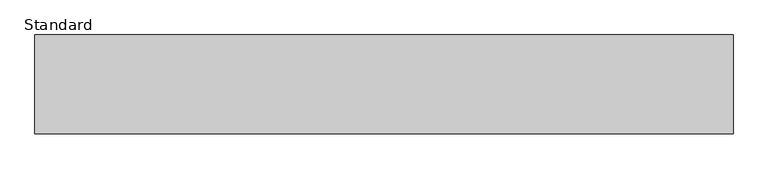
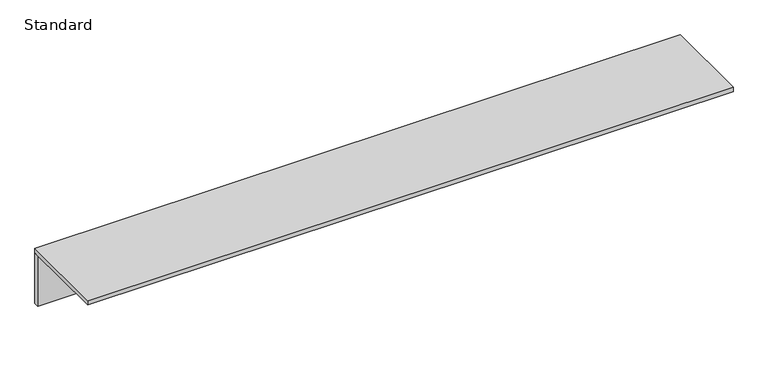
"""IFC4 building model written with IfcOpenShell, lengths in millimetres: furniture geometry, X_Bench-Wall-Duracube-Shoe Box with Fixtures : Standard."""

import ifcopenshell
import ifcopenshell.guid

model = None  # the IFC model being written
_history = None  # IfcOwnerHistory: only IFC2X3 demands one
_inside = {}  # id of a spatial element -> (the spatial element, [elements in it])
_under = {}  # id of a project, library or spatial element -> (it, [spatial elements below it])
_declared = {}  # id of a project -> (the project, [libraries it declares])
_typed = {}  # id of a type object -> (the type object, [elements of that type])
_made_of = {}  # id of a material, layer set ... -> (it, [elements and type objects made of it])


def new_model(schema):
    """Start an empty IFC model of exactly this schema.

    Asked for "IFC4X3", IfcOpenShell would pick the latest addendum, in which some entities
    have other attributes; the version numbers below select the first issue.
    IFC2X3 requires an IfcOwnerHistory on every rooted entity: one is made here for all.
    """
    global model, _history
    if schema == "IFC4X3":
        model = ifcopenshell.file(schema_version=(4, 3, 0, 0))
    else:
        model = ifcopenshell.file(schema=schema)
    _inside.clear()
    _under.clear()
    _declared.clear()
    _typed.clear()
    _made_of.clear()
    _history = None
    if model.schema == "IFC2X3":
        org = make("IfcOrganization", Name="unknown")
        user = make(
            "IfcPersonAndOrganization",
            ThePerson=make("IfcPerson", FamilyName="unknown"),
            TheOrganization=org,
        )
        app = make(
            "IfcApplication",
            ApplicationDeveloper=org,
            Version="unknown",
            ApplicationFullName="unknown",
            ApplicationIdentifier="unknown",
        )
        _history = make(
            "IfcOwnerHistory",
            OwningUser=user,
            OwningApplication=app,
            ChangeAction="ADDED",
            CreationDate=0,
        )
    return model


def make(cls, **values):
    """One entity of the class cls with the attributes given. An attribute that is None is left unset."""
    return model.create_entity(
        cls, **{name: value for name, value in values.items() if value is not None}
    )


def rooted(cls, **values):
    """An entity with a GlobalId (a new one), such as an element, a storey or a relation."""
    return make(cls, GlobalId=ifcopenshell.guid.new(), OwnerHistory=_history, **values)


def si_unit(unit_type, name, prefix=None):
    """IfcSIUnit, for example si_unit("LENGTHUNIT", "METRE", prefix="MILLI")."""
    return make("IfcSIUnit", UnitType=unit_type, Prefix=prefix, Name=name)


def assignment(units):
    """IfcUnitAssignment: the units of a project."""
    return None if units is None else make("IfcUnitAssignment", Units=units)


def point(xyz):
    """IfcCartesianPoint."""
    return None if xyz is None else make("IfcCartesianPoint", Coordinates=xyz)


def direction(xyz):
    """IfcDirection."""
    return None if xyz is None else make("IfcDirection", DirectionRatios=xyz)


def frame(location, z_axis=None, x_axis=None):
    """IfcAxis2Placement3D, a coordinate frame: its origin and axes. An axis left out is left unset."""
    return make(
        "IfcAxis2Placement3D",
        Location=point(location),
        Axis=direction(z_axis),
        RefDirection=direction(x_axis),
    )


def origin():
    """The frame at (0, 0, 0) with its axes left unset."""
    return frame((0.0, 0.0, 0.0))


def place(relative_to, where):
    """IfcLocalPlacement: puts the frame where relative to a parent placement (None: the world)."""
    return make(
        "IfcLocalPlacement", PlacementRelTo=relative_to, RelativePlacement=where
    )


def context(
    kind, dimensions, precision=None, world=None, true_north=None, identifier=None
):
    """IfcGeometricRepresentationContext, for example the 3D "Model" context."""
    return make(
        "IfcGeometricRepresentationContext",
        ContextIdentifier=identifier,
        ContextType=kind,
        CoordinateSpaceDimension=dimensions,
        Precision=precision,
        WorldCoordinateSystem=world,
        TrueNorth=true_north,
    )


def project(units=None, contexts=None):
    """IfcProject with its units and contexts."""
    return rooted(
        "IfcProject",
        Name="project",
        RepresentationContexts=contexts,
        UnitsInContext=assignment(units),
    )


def spatial(cls, under=None, at=None, **own):
    """A site, building, storey or space (cls), placed at a placement, below another one or the project."""
    s = rooted(cls, ObjectPlacement=at, **own)
    if under is not None:
        _under.setdefault(under.id(), (under, []))[1].append(s)
    return s


def polyline(points):
    """IfcPolyline through the points."""
    return make("IfcPolyline", Points=[point(p) for p in points])


def outline(outer, holes=None, kind="AREA"):
    """IfcArbitraryClosedProfileDef: a profile drawn as a closed curve; with holes, ...WithVoids."""
    if holes is None:
        return make("IfcArbitraryClosedProfileDef", ProfileType=kind, OuterCurve=outer)
    return make(
        "IfcArbitraryProfileDefWithVoids",
        ProfileType=kind,
        OuterCurve=outer,
        InnerCurves=holes,
    )


def extrude(swept, where, along, depth):
    """IfcExtrudedAreaSolid: the profile swept, set in the frame where, extruded along a direction by depth."""
    return make(
        "IfcExtrudedAreaSolid",
        SweptArea=swept,
        Position=where,
        ExtrudedDirection=direction(along),
        Depth=depth,
    )


def shape(context_of_items, identifier, shape_type, items):
    """IfcShapeRepresentation: the items that make up one representation, for example the "Body"."""
    return make(
        "IfcShapeRepresentation",
        ContextOfItems=context_of_items,
        RepresentationIdentifier=identifier,
        RepresentationType=shape_type,
        Items=items,
    )


def source(mapping_origin, context_of_items, identifier, shape_type, items):
    """IfcRepresentationMap: a shape defined once, which mapped items show again and again."""
    return make(
        "IfcRepresentationMap",
        MappingOrigin=mapping_origin,
        MappedRepresentation=shape(context_of_items, identifier, shape_type, items),
    )


def transform(
    local_origin,
    x_axis=None,
    y_axis=None,
    z_axis=None,
    scale=None,
    scale2=None,
    scale3=None,
    uniform=True,
):
    """IfcCartesianTransformationOperator3D, or its non-uniform kind. x_axis, y_axis, z_axis: its Axis1, 2, 3."""
    if uniform:
        return make(
            "IfcCartesianTransformationOperator3D",
            Axis1=direction(x_axis),
            Axis2=direction(y_axis),
            LocalOrigin=point(local_origin),
            Scale=scale,
            Axis3=direction(z_axis),
        )
    return make(
        "IfcCartesianTransformationOperator3DnonUniform",
        Axis1=direction(x_axis),
        Axis2=direction(y_axis),
        LocalOrigin=point(local_origin),
        Scale=scale,
        Axis3=direction(z_axis),
        Scale2=scale2,
        Scale3=scale3,
    )


def mapped(mapping_source, mapping_target):
    """IfcMappedItem: shows the shape of a source again, moved by a transform."""
    return make(
        "IfcMappedItem", MappingSource=mapping_source, MappingTarget=mapping_target
    )


def made_of(thing, what):
    """Note that an element or type object is made of a material, layer set ...; save() writes the relation."""
    if what is not None:
        _made_of.setdefault(what.id(), (what, []))[1].append(thing)
    return thing


def element(
    cls,
    number,
    at=None,
    inside=None,
    cuts=None,
    type_object=None,
    material=None,
    context=None,
    identifier="Body",
    shape_type=None,
    held_by="IfcProductDefinitionShape",
    body=None,
    shapes=None,
    **own,
):
    """One element of the class cls, such as IfcWall. Its Tag is "e" and its number.

    at: its placement. inside: the storey or other place that contains it. cuts: it is an
    opening in that element (IfcRelVoidsElement). A single representation is given by context,
    identifier, shape_type and body (its items); several are given by shapes. held_by: the class
    of the entity that holds the representations. save() writes the other relations.
    """
    e = rooted(cls, Tag="e%d" % number, ObjectPlacement=at, **own)
    if body is not None:
        shapes = [shape(context, identifier, shape_type, body)]
    if shapes is not None:
        e.Representation = make(held_by, Representations=shapes)
    if inside is not None:
        _inside.setdefault(inside.id(), (inside, []))[1].append(e)
    if cuts is not None:
        rooted(
            "IfcRelVoidsElement", RelatingBuildingElement=cuts, RelatedOpeningElement=e
        )
    if type_object is not None:
        _typed.setdefault(type_object.id(), (type_object, []))[1].append(e)
    return made_of(e, material)


def aggregate(whole, parts):
    """IfcRelAggregates: a whole, such as a stair, and the parts it consists of."""
    return rooted("IfcRelAggregates", RelatingObject=whole, RelatedObjects=parts)


def save(model, path):
    """Write the relations noted so far, then the file.

    IfcRelAggregates (storeys below a building ...), IfcRelContainedInSpatialStructure (elements
    in a storey), IfcRelDefinesByType, IfcRelAssociatesMaterial and IfcRelDeclares: one each for
    every whole, place, type object, material and project.
    """
    for whole, parts in _under.values():
        aggregate(whole, parts)
    for where, things in _inside.values():
        rooted(
            "IfcRelContainedInSpatialStructure",
            RelatedElements=things,
            RelatingStructure=where,
        )
    for kind, things in _typed.values():
        rooted("IfcRelDefinesByType", RelatedObjects=things, RelatingType=kind)
    for what, things in _made_of.values():
        rooted("IfcRelAssociatesMaterial", RelatedObjects=things, RelatingMaterial=what)
    for by, libraries in _declared.values():
        rooted("IfcRelDeclares", RelatingContext=by, RelatedDefinitions=libraries)
    model.write(path)


def standard_566b8f76(model_context):
    return source(origin(), model_context, "Body", "SweptSolid", [
        extrude(outline(polyline([(944.7003264, -407.5), (944.7003264, -662.5), (-855.2996736, -662.5), (-855.2996736, -407.5), (944.7003264, -407.5)])), frame((0.0, 0.0, 1787.0), z_axis=(0.0, 0.0, 1.0), x_axis=(1.0, 0.0, 0.0)), (0.0, 0.0, 1.0), 13.0),
        extrude(outline(polyline([(944.7003264, -407.5), (944.7003264, -420.5), (-855.2996736, -420.5), (-855.2996736, -407.5), (944.7003264, -407.5)])), frame((0.0, 0.0, 1637.0), z_axis=(0.0, 0.0, 1.0), x_axis=(1.0, 0.0, 0.0)), (0.0, 0.0, 1.0), 150.0),
    ])


if __name__ == "__main__":
    model = new_model("IFC4")
    model_context = context("Model", 3, world=origin())
    ifc_project = project(units=[si_unit("LENGTHUNIT", "METRE", prefix="MILLI")], contexts=[model_context])
    site = spatial("IfcSite", under=ifc_project)
    building = spatial("IfcBuilding", under=site)
    placement = place(None, origin())
    standard_shape = standard_566b8f76(model_context)
    element("IfcFurniture", 1, ObjectType="X_Bench-Wall-Duracube-Shoe Box with Fixtures : Standard", at=placement, inside=building, context=model_context, shape_type="MappedRepresentation", body=[
        mapped(standard_shape, transform((0.0, 0.0, 0.0), x_axis=(1.0, 0.0, 0.0), y_axis=(0.0, 1.0, 0.0), z_axis=(0.0, 0.0, 1.0))),
    ])
    save(model, "model.ifc")
